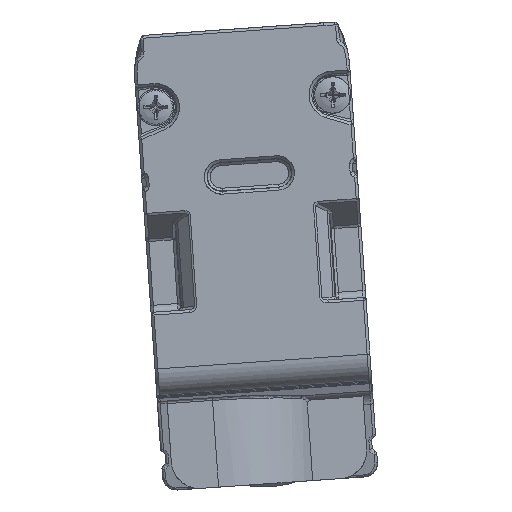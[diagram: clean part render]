
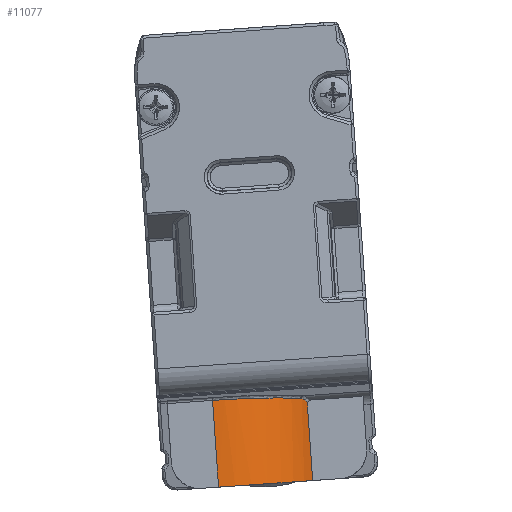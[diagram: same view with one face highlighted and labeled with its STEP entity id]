
A CAD part, front view. The second image highlights one B-rep face of the part: STEP entity #11077.
In plain terms, the highlighted cylindrical face has radius 7.5 mm (diameter 15 mm), a partial arc.
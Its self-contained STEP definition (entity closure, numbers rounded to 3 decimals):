
#1679=B_SPLINE_CURVE_WITH_KNOTS('',3,(#55166,#55167,#55168,#55169,#55170,
#55171,#55172,#55173,#55174,#55175),.UNSPECIFIED.,.F.,.F.,(4,2,2,2,4),(0.,
0.25,0.375,0.5,1.),.UNSPECIFIED.);
#1680=B_SPLINE_CURVE_WITH_KNOTS('',3,(#55177,#55178,#55179,#55180,#55181,
#55182,#55183,#55184,#55185,#55186),.UNSPECIFIED.,.F.,.F.,(4,2,2,2,4),(0.,
0.25,0.5,0.75,1.),.UNSPECIFIED.);
#3666=CYLINDRICAL_SURFACE('',#30664,7.5);
#10239=CIRCLE('',#30663,7.5);
#11077=ADVANCED_FACE('',(#12408),#3666,.T.);
#12408=FACE_OUTER_BOUND('',#13483,.T.);
#13483=EDGE_LOOP('',(#16996,#16997,#16998,#16999,#17000));
#16996=ORIENTED_EDGE('',*,*,#25935,.T.);
#16997=ORIENTED_EDGE('',*,*,#25936,.T.);
#16998=ORIENTED_EDGE('',*,*,#25937,.T.);
#16999=ORIENTED_EDGE('',*,*,#25938,.T.);
#17000=ORIENTED_EDGE('',*,*,#25939,.F.);
#21513=VERTEX_POINT('',#55164);
#21514=VERTEX_POINT('',#55165);
#21515=VERTEX_POINT('',#55176);
#21516=VERTEX_POINT('',#55187);
#21517=VERTEX_POINT('',#55189);
#25935=EDGE_CURVE('',#21513,#21514,#28620,.T.);
#25936=EDGE_CURVE('',#21514,#21515,#1679,.T.);
#25937=EDGE_CURVE('',#21515,#21516,#1680,.T.);
#25938=EDGE_CURVE('',#21516,#21517,#28621,.T.);
#25939=EDGE_CURVE('',#21513,#21517,#10239,.T.);
#28620=LINE('',#55163,#29406);
#28621=LINE('',#55188,#29407);
#29406=VECTOR('',#33890,1.);
#29407=VECTOR('',#33891,1.);
#30663=AXIS2_PLACEMENT_3D('',#55190,#33892,#33893);
#30664=AXIS2_PLACEMENT_3D('',#55191,#33894,#33895);
#33890=DIRECTION('',(-0.07,0.,0.998));
#33891=DIRECTION('',(0.07,0.,-0.998));
#33892=DIRECTION('',(0.07,0.,-0.998));
#33893=DIRECTION('',(0.998,0.,0.07));
#33894=DIRECTION('',(0.07,0.,-0.998));
#33895=DIRECTION('',(0.,1.,0.));
#55163=CARTESIAN_POINT('',(-40.701,-170.597,14.888));
#55164=CARTESIAN_POINT('',(-40.701,-170.597,14.888));
#55165=CARTESIAN_POINT('',(-41.088,-170.597,20.435));
#55166=CARTESIAN_POINT('',(-41.088,-170.597,20.435));
#55167=CARTESIAN_POINT('',(-41.114,-170.643,20.483));
#55168=CARTESIAN_POINT('',(-41.142,-170.693,20.526));
#55169=CARTESIAN_POINT('',(-41.187,-170.773,20.581));
#55170=CARTESIAN_POINT('',(-41.203,-170.8,20.599));
#55171=CARTESIAN_POINT('',(-41.235,-170.857,20.631));
#55172=CARTESIAN_POINT('',(-41.253,-170.887,20.646));
#55173=CARTESIAN_POINT('',(-41.336,-171.031,20.709));
#55174=CARTESIAN_POINT('',(-41.408,-171.152,20.738));
#55175=CARTESIAN_POINT('',(-41.487,-171.278,20.743));
#55176=CARTESIAN_POINT('',(-41.487,-171.278,20.743));
#55177=CARTESIAN_POINT('',(-41.487,-171.278,20.743));
#55178=CARTESIAN_POINT('',(-41.856,-171.868,20.771));
#55179=CARTESIAN_POINT('',(-42.299,-172.393,20.786));
#55180=CARTESIAN_POINT('',(-43.281,-173.292,20.797));
#55181=CARTESIAN_POINT('',(-43.82,-173.665,20.793));
#55182=CARTESIAN_POINT('',(-44.944,-174.255,20.767));
#55183=CARTESIAN_POINT('',(-45.53,-174.47,20.746));
#55184=CARTESIAN_POINT('',(-46.703,-174.752,20.691));
#55185=CARTESIAN_POINT('',(-47.291,-174.818,20.656));
#55186=CARTESIAN_POINT('',(-47.863,-174.818,20.616));
#55187=CARTESIAN_POINT('',(-47.863,-174.818,20.616));
#55188=CARTESIAN_POINT('',(-47.667,-174.818,17.815));
#55189=CARTESIAN_POINT('',(-47.43,-174.818,14.418));
#55190=CARTESIAN_POINT('',(-47.43,-167.318,14.418));
#55191=CARTESIAN_POINT('',(-52.434,-167.318,85.982));
